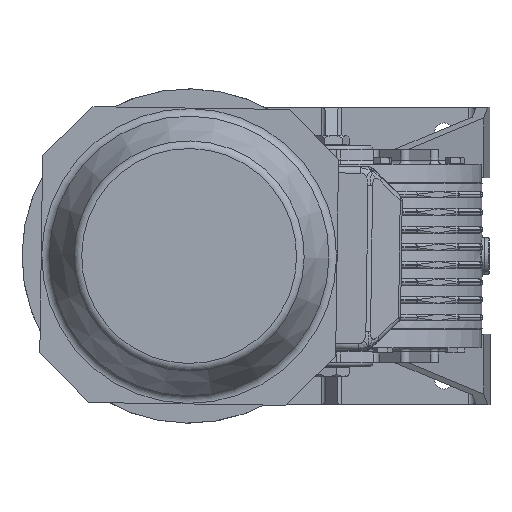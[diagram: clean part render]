
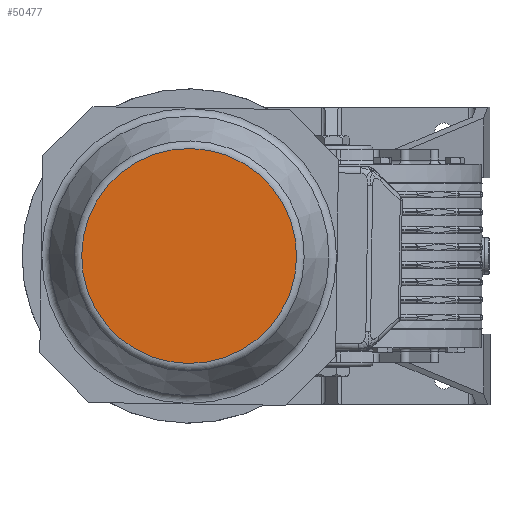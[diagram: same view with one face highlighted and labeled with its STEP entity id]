
A CAD part, left-side view. The second image highlights one B-rep face of the part: STEP entity #50477.
In plain terms, the highlighted planar face has unit normal (-1, 0, 0) as drawn and (1, 0, 0) by its records, which use the part's own axes.
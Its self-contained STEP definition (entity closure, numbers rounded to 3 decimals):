
#50454=CARTESIAN_POINT('',(282.,0.0,64.298));
#50455=VERTEX_POINT('',#50454);
#50456=CARTESIAN_POINT('',(282.,0.0,0.0));
#50457=DIRECTION('',(-1.0,0.0,0.0));
#50458=DIRECTION('',(0.0,0.0,-1.0));
#50459=AXIS2_PLACEMENT_3D('',#50456,#50457,#50458);
#50460=CIRCLE('',#50459,64.298);
#50461=EDGE_CURVE('',#50455,#50455,#50460,.T.);
#50469=CARTESIAN_POINT('',(282.,0.0,33.75));
#50470=DIRECTION('',(1.0,0.0,0.0));
#50471=DIRECTION('',(0.0,0.0,-1.0));
#50472=AXIS2_PLACEMENT_3D('',#50469,#50470,#50471);
#50473=PLANE('',#50472);
#50474=ORIENTED_EDGE('',*,*,#50461,.F.);
#50475=EDGE_LOOP('',(#50474));
#50476=FACE_OUTER_BOUND('',#50475,.T.);
#50477=ADVANCED_FACE('',(#50476),#50473,.T.);
